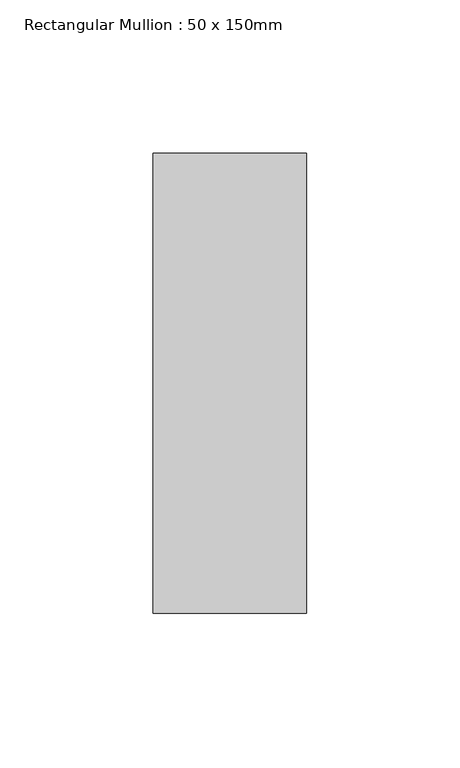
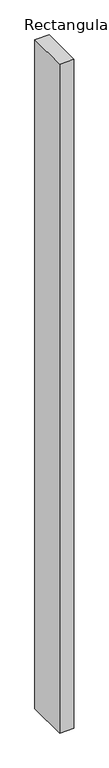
"""IFC4 building model written with IfcOpenShell, lengths in millimetres: member geometry, Rectangular Mullion : 50 x 150mm."""

from ifc_helpers import new_model, si_unit, frame, origin, place, context, project, spatial, polyline, outline, extrude, source, transform, mapped, element, save


def rectangular_mullion_50_x_150mm_3a427f09(model_context):
    return source(origin(), model_context, "Body", "SweptSolid", [
        extrude(outline(polyline([(0.0, 75.0), (0.0, -75.0), (-50.0, -75.0), (-50.0, 75.0), (0.0, 75.0)])), frame((0.0, 0.0, -2488.7229913), z_axis=(0.0, 0.0, 1.0), x_axis=(1.0, 0.0, 0.0)), (0.0, 0.0, 1.0), 2488.7229913),
    ])


if __name__ == "__main__":
    model = new_model("IFC4")
    model_context = context("Model", 3, world=origin())
    ifc_project = project(units=[si_unit("LENGTHUNIT", "METRE", prefix="MILLI")], contexts=[model_context])
    site = spatial("IfcSite", under=ifc_project)
    building = spatial("IfcBuilding", under=site)
    placement = place(None, origin())
    rectangular_mullion_50_x_150mm_shape = rectangular_mullion_50_x_150mm_3a427f09(model_context)
    element("IfcMember", 1, ObjectType="Rectangular Mullion : 50 x 150mm", at=placement, inside=building, context=model_context, shape_type="MappedRepresentation", body=[
        mapped(rectangular_mullion_50_x_150mm_shape, transform((0.0, 0.0, 0.0), x_axis=(1.0, 0.0, 0.0), y_axis=(0.0, 1.0, 0.0), z_axis=(0.0, 0.0, 1.0))),
    ])
    save(model, "model.ifc")
